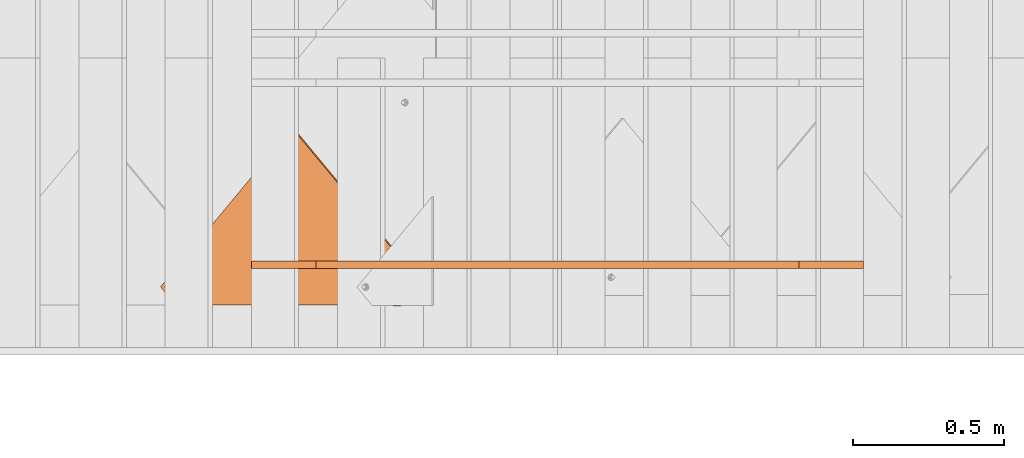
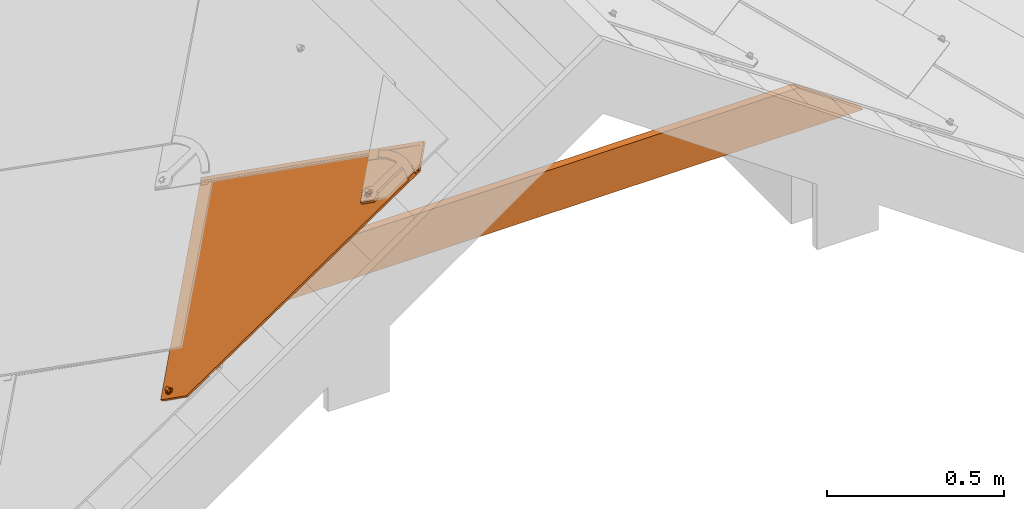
# One storey, part 13 of 133: 2 proxies, 1 element without a shape of its own.
"""IFC2X3 building model written with IfcOpenShell, lengths in millimetres."""

import ifcopenshell
import ifcopenshell.guid

model = None  # the IFC model being written
_history = None  # IfcOwnerHistory: only IFC2X3 demands one
_inside = {}  # id of a spatial element -> (the spatial element, [elements in it])
_under = {}  # id of a project, library or spatial element -> (it, [spatial elements below it])
_declared = {}  # id of a project -> (the project, [libraries it declares])
_typed = {}  # id of a type object -> (the type object, [elements of that type])
_made_of = {}  # id of a material, layer set ... -> (it, [elements and type objects made of it])


def new_model(schema):
    """Start an empty IFC model of exactly this schema.

    Asked for "IFC4X3", IfcOpenShell would pick the latest addendum, in which some entities
    have other attributes; the version numbers below select the first issue.
    IFC2X3 requires an IfcOwnerHistory on every rooted entity: one is made here for all.
    """
    global model, _history
    if schema == "IFC4X3":
        model = ifcopenshell.file(schema_version=(4, 3, 0, 0))
    else:
        model = ifcopenshell.file(schema=schema)
    _inside.clear()
    _under.clear()
    _declared.clear()
    _typed.clear()
    _made_of.clear()
    _history = None
    if model.schema == "IFC2X3":
        org = make("IfcOrganization", Name="unknown")
        user = make(
            "IfcPersonAndOrganization",
            ThePerson=make("IfcPerson", FamilyName="unknown"),
            TheOrganization=org,
        )
        app = make(
            "IfcApplication",
            ApplicationDeveloper=org,
            Version="unknown",
            ApplicationFullName="unknown",
            ApplicationIdentifier="unknown",
        )
        _history = make(
            "IfcOwnerHistory",
            OwningUser=user,
            OwningApplication=app,
            ChangeAction="ADDED",
            CreationDate=0,
        )
    return model


def make(cls, **values):
    """One entity of the class cls with the attributes given. An attribute that is None is left unset."""
    return model.create_entity(
        cls, **{name: value for name, value in values.items() if value is not None}
    )


def entity(cls, *values):
    """Any entity or typed value of the class cls, its attributes in the order of the schema. None: left unset."""
    e = model.create_entity(cls)
    for i, value in enumerate(values):
        if value is not None:
            e[i] = value
    return e


def rooted(cls, **values):
    """An entity with a GlobalId (a new one), such as an element, a storey or a relation."""
    return make(cls, GlobalId=ifcopenshell.guid.new(), OwnerHistory=_history, **values)


def si_unit(unit_type, name, prefix=None):
    """IfcSIUnit, for example si_unit("LENGTHUNIT", "METRE", prefix="MILLI")."""
    return make("IfcSIUnit", UnitType=unit_type, Prefix=prefix, Name=name)


def converted_unit(unit_type, name, factor, base, dimensions=None, offset=None):
    """IfcConversionBasedUnit, such as the inch: factor (a typed value) times the base unit."""
    return make(
        "IfcConversionBasedUnit"
        if offset is None
        else "IfcConversionBasedUnitWithOffset",
        ConversionOffset=offset,
        Dimensions=None
        if dimensions is None
        else entity("IfcDimensionalExponents", *dimensions),
        UnitType=unit_type,
        Name=name,
        ConversionFactor=make(
            "IfcMeasureWithUnit", ValueComponent=factor, UnitComponent=base
        ),
    )


def derived_unit(unit_type, elements):
    """IfcDerivedUnit: a product of units, each with its exponent."""
    return make(
        "IfcDerivedUnit",
        Elements=[
            make("IfcDerivedUnitElement", Unit=unit, Exponent=power)
            for unit, power in elements
        ],
        UnitType=unit_type,
    )


def assignment(units):
    """IfcUnitAssignment: the units of a project."""
    return None if units is None else make("IfcUnitAssignment", Units=units)


def point(xyz):
    """IfcCartesianPoint."""
    return None if xyz is None else make("IfcCartesianPoint", Coordinates=xyz)


def direction(xyz):
    """IfcDirection."""
    return None if xyz is None else make("IfcDirection", DirectionRatios=xyz)


def frame(location, z_axis=None, x_axis=None):
    """IfcAxis2Placement3D, a coordinate frame: its origin and axes. An axis left out is left unset."""
    return make(
        "IfcAxis2Placement3D",
        Location=point(location),
        Axis=direction(z_axis),
        RefDirection=direction(x_axis),
    )


def origin():
    """The frame at (0, 0, 0) with its axes left unset."""
    return frame((0.0, 0.0, 0.0))


def place(relative_to, where):
    """IfcLocalPlacement: puts the frame where relative to a parent placement (None: the world)."""
    return make(
        "IfcLocalPlacement", PlacementRelTo=relative_to, RelativePlacement=where
    )


def context(
    kind, dimensions, precision=None, world=None, true_north=None, identifier=None
):
    """IfcGeometricRepresentationContext, for example the 3D "Model" context."""
    return make(
        "IfcGeometricRepresentationContext",
        ContextIdentifier=identifier,
        ContextType=kind,
        CoordinateSpaceDimension=dimensions,
        Precision=precision,
        WorldCoordinateSystem=world,
        TrueNorth=true_north,
    )


def subcontext(parent, identifier, kind, view, scale=None):
    """IfcGeometricRepresentationSubContext, for example "Body" below "Model"."""
    return make(
        "IfcGeometricRepresentationSubContext",
        ContextIdentifier=identifier,
        ContextType=kind,
        ParentContext=parent,
        TargetScale=scale,
        TargetView=view,
    )


def project(units=None, contexts=None):
    """IfcProject with its units and contexts."""
    return rooted(
        "IfcProject",
        Name="project",
        RepresentationContexts=contexts,
        UnitsInContext=assignment(units),
    )


def spatial(cls, under=None, at=None, **own):
    """A site, building, storey or space (cls), placed at a placement, below another one or the project."""
    s = rooted(cls, ObjectPlacement=at, **own)
    if under is not None:
        _under.setdefault(under.id(), (under, []))[1].append(s)
    return s


def polyline(points):
    """IfcPolyline through the points."""
    return make("IfcPolyline", Points=[point(p) for p in points])


def outline(outer, holes=None, kind="AREA"):
    """IfcArbitraryClosedProfileDef: a profile drawn as a closed curve; with holes, ...WithVoids."""
    if holes is None:
        return make("IfcArbitraryClosedProfileDef", ProfileType=kind, OuterCurve=outer)
    return make(
        "IfcArbitraryProfileDefWithVoids",
        ProfileType=kind,
        OuterCurve=outer,
        InnerCurves=holes,
    )


def extrude(swept, where, along, depth):
    """IfcExtrudedAreaSolid: the profile swept, set in the frame where, extruded along a direction by depth."""
    return make(
        "IfcExtrudedAreaSolid",
        SweptArea=swept,
        Position=where,
        ExtrudedDirection=direction(along),
        Depth=depth,
    )


def faces_of(points, faces, orient=None, outer=None):
    """IfcFace entities. A face is a list of loops; a loop is a list of indices into points, from 0.

    orient and outer hold one flag for each loop. By default every Orientation is true, the
    first loop of a face is its IfcFaceOuterBound and the others are IfcFaceBound.
    """
    made = []
    for i, loops in enumerate(faces):
        bounds = []
        for j, loop in enumerate(loops):
            is_outer = j == 0 if outer is None else outer[i][j]
            bounds.append(
                make(
                    "IfcFaceOuterBound" if is_outer else "IfcFaceBound",
                    Bound=make("IfcPolyLoop", Polygon=[points[k] for k in loop]),
                    Orientation=True if orient is None else orient[i][j],
                )
            )
        made.append(make("IfcFace", Bounds=bounds))
    return made


def faceted_brep(points, faces, orient=None, outer=None, voids=None):
    """IfcFacetedBrep: a solid bounded by flat faces; with voids (closed shells), ...WithVoids."""
    shared = [point(p) for p in points]
    hull = make("IfcClosedShell", CfsFaces=faces_of(shared, faces, orient, outer))
    if voids is None:
        return make("IfcFacetedBrep", Outer=hull)
    return make(
        "IfcFacetedBrepWithVoids",
        Outer=hull,
        Voids=[
            make(cls, CfsFaces=faces_of(shared, fs, o, b)) for cls, fs, o, b in voids
        ],
    )


def shape(context_of_items, identifier, shape_type, items):
    """IfcShapeRepresentation: the items that make up one representation, for example the "Body"."""
    return make(
        "IfcShapeRepresentation",
        ContextOfItems=context_of_items,
        RepresentationIdentifier=identifier,
        RepresentationType=shape_type,
        Items=items,
    )


def source(mapping_origin, context_of_items, identifier, shape_type, items):
    """IfcRepresentationMap: a shape defined once, which mapped items show again and again."""
    return make(
        "IfcRepresentationMap",
        MappingOrigin=mapping_origin,
        MappedRepresentation=shape(context_of_items, identifier, shape_type, items),
    )


def transform(
    local_origin,
    x_axis=None,
    y_axis=None,
    z_axis=None,
    scale=None,
    scale2=None,
    scale3=None,
    uniform=True,
):
    """IfcCartesianTransformationOperator3D, or its non-uniform kind. x_axis, y_axis, z_axis: its Axis1, 2, 3."""
    if uniform:
        return make(
            "IfcCartesianTransformationOperator3D",
            Axis1=direction(x_axis),
            Axis2=direction(y_axis),
            LocalOrigin=point(local_origin),
            Scale=scale,
            Axis3=direction(z_axis),
        )
    return make(
        "IfcCartesianTransformationOperator3DnonUniform",
        Axis1=direction(x_axis),
        Axis2=direction(y_axis),
        LocalOrigin=point(local_origin),
        Scale=scale,
        Axis3=direction(z_axis),
        Scale2=scale2,
        Scale3=scale3,
    )


def mapped(mapping_source, mapping_target):
    """IfcMappedItem: shows the shape of a source again, moved by a transform."""
    return make(
        "IfcMappedItem", MappingSource=mapping_source, MappingTarget=mapping_target
    )


def material(Name=None, Category=None):
    """IfcMaterial."""
    return make("IfcMaterial", Name=Name, Category=Category)


def material_list(materials):
    """IfcMaterialList."""
    return make("IfcMaterialList", Materials=materials)


def made_of(thing, what):
    """Note that an element or type object is made of a material, layer set ...; save() writes the relation."""
    if what is not None:
        _made_of.setdefault(what.id(), (what, []))[1].append(thing)
    return thing


def type_object(cls, material=None, **own):
    """A type object (cls), such as IfcWallType, which elements share."""
    return made_of(rooted(cls, **own), material)


def type_shapes(of_type, sources):
    """Give a type object the sources (RepresentationMaps) that its elements show as mapped items."""
    of_type.RepresentationMaps = sources


def element(
    cls,
    number,
    at=None,
    inside=None,
    cuts=None,
    type_object=None,
    material=None,
    context=None,
    identifier="Body",
    shape_type=None,
    held_by="IfcProductDefinitionShape",
    body=None,
    shapes=None,
    **own,
):
    """One element of the class cls, such as IfcWall. Its Tag is "e" and its number.

    at: its placement. inside: the storey or other place that contains it. cuts: it is an
    opening in that element (IfcRelVoidsElement). A single representation is given by context,
    identifier, shape_type and body (its items); several are given by shapes. held_by: the class
    of the entity that holds the representations. save() writes the other relations.
    """
    e = rooted(cls, Tag="e%d" % number, ObjectPlacement=at, **own)
    if body is not None:
        shapes = [shape(context, identifier, shape_type, body)]
    if shapes is not None:
        e.Representation = make(held_by, Representations=shapes)
    if inside is not None:
        _inside.setdefault(inside.id(), (inside, []))[1].append(e)
    if cuts is not None:
        rooted(
            "IfcRelVoidsElement", RelatingBuildingElement=cuts, RelatedOpeningElement=e
        )
    if type_object is not None:
        _typed.setdefault(type_object.id(), (type_object, []))[1].append(e)
    return made_of(e, material)


def aggregate(whole, parts):
    """IfcRelAggregates: a whole, such as a stair, and the parts it consists of."""
    return rooted("IfcRelAggregates", RelatingObject=whole, RelatedObjects=parts)


def save(model, path):
    """Write the relations noted so far, then the file.

    IfcRelAggregates (storeys below a building ...), IfcRelContainedInSpatialStructure (elements
    in a storey), IfcRelDefinesByType, IfcRelAssociatesMaterial and IfcRelDeclares: one each for
    every whole, place, type object, material and project.
    """
    for whole, parts in _under.values():
        aggregate(whole, parts)
    for where, things in _inside.values():
        rooted(
            "IfcRelContainedInSpatialStructure",
            RelatedElements=things,
            RelatingStructure=where,
        )
    for kind, things in _typed.values():
        rooted("IfcRelDefinesByType", RelatedObjects=things, RelatingType=kind)
    for what, things in _made_of.values():
        rooted("IfcRelAssociatesMaterial", RelatedObjects=things, RelatingMaterial=what)
    for by, libraries in _declared.values():
        rooted("IfcRelDeclares", RelatingContext=by, RelatedDefinitions=libraries)
    model.write(path)


model = new_model("IFC2X3")

# Units and contexts
model_context = context("Model", 3, precision=0.01, world=origin(), true_north=direction((6.12303176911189e-17, 1.0)))
body_context = subcontext(model_context, "Body", "Model", "MODEL_VIEW")
ifc_project = project(units=[si_unit("LENGTHUNIT", "METRE", prefix="MILLI"), si_unit("AREAUNIT", "SQUARE_METRE"), si_unit("VOLUMEUNIT", "CUBIC_METRE"), converted_unit("PLANEANGLEUNIT", "DEGREE", entity("IfcRatioMeasure", 0.0174532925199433), si_unit("PLANEANGLEUNIT", "RADIAN"), dimensions=[0, 0, 0, 0, 0, 0, 0]), si_unit("MASSUNIT", "GRAM", prefix="KILO"), derived_unit("MASSDENSITYUNIT", [(si_unit("MASSUNIT", "GRAM", prefix="KILO"), 1), (si_unit("LENGTHUNIT", "METRE"), -3)]), si_unit("TIMEUNIT", "SECOND"), si_unit("FREQUENCYUNIT", "HERTZ"), si_unit("THERMODYNAMICTEMPERATUREUNIT", "DEGREE_CELSIUS"), derived_unit("THERMALTRANSMITTANCEUNIT", [(si_unit("MASSUNIT", "GRAM", prefix="KILO"), 1), (si_unit("THERMODYNAMICTEMPERATUREUNIT", "KELVIN"), -1), (si_unit("TIMEUNIT", "SECOND"), -3)]), derived_unit("VOLUMETRICFLOWRATEUNIT", [(si_unit("LENGTHUNIT", "METRE"), 3), (si_unit("TIMEUNIT", "SECOND"), -1)]), si_unit("ELECTRICCURRENTUNIT", "AMPERE"), si_unit("ELECTRICVOLTAGEUNIT", "VOLT"), si_unit("POWERUNIT", "WATT"), si_unit("FORCEUNIT", "NEWTON", prefix="KILO"), si_unit("ILLUMINANCEUNIT", "LUX"), si_unit("LUMINOUSFLUXUNIT", "LUMEN"), si_unit("LUMINOUSINTENSITYUNIT", "CANDELA"), derived_unit("USERDEFINED", [(si_unit("MASSUNIT", "GRAM", prefix="KILO"), -1), (si_unit("LENGTHUNIT", "METRE"), -2), (si_unit("TIMEUNIT", "SECOND"), 3), (si_unit("LUMINOUSFLUXUNIT", "LUMEN"), 1)]), derived_unit("LINEARVELOCITYUNIT", [(si_unit("LENGTHUNIT", "METRE"), 1), (si_unit("TIMEUNIT", "SECOND"), -1)]), si_unit("PRESSUREUNIT", "PASCAL"), derived_unit("USERDEFINED", [(si_unit("LENGTHUNIT", "METRE"), -2), (si_unit("MASSUNIT", "GRAM", prefix="KILO"), 1), (si_unit("TIMEUNIT", "SECOND"), -2)])], contexts=[model_context])

# Site, building, storey
site_placement = place(None, origin())
site = spatial("IfcSite", under=ifc_project, at=site_placement, Name="Default", CompositionType="ELEMENT")
building_placement = place(site_placement, origin())
building = spatial("IfcBuilding", under=site, at=building_placement, CompositionType="ELEMENT")
storey_placement = place(building_placement, origin())
storey = spatial("IfcBuildingStorey", under=building, at=storey_placement, Name="Level 1", CompositionType="ELEMENT", Elevation=0.0)

# Assembly, proxy
assembly_placement = place(storey_placement, origin())
assembly = element("IfcElementAssembly", 1, at=assembly_placement, inside=storey, Name="Structural Framing Assembly:Roof Construction Assembly", ObjectType="Structural Framing Assembly:Roof Construction Assembly", AssemblyPlace="NOTDEFINED", PredefinedType="USERDEFINED")
ifc_material_1 = material(Name="Wood - Generic - Wood For Showcase")
building_element_proxy_type_1 = type_object("IfcBuildingElementProxyType", Name="Structural Framing 296", PredefinedType="NOTDEFINED", material=ifc_material_1)
shared_shape_1 = source(origin(), body_context, "Body", "SweptSolid", [
    extrude(outline(polyline([(-1014.04699829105, -75.0), (1014.04699829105, -75.0), (799.824797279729, 75.0), (-799.824797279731, 75.0), (-1014.04699829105, -75.0)])), frame((1206.77890726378, 2325.55080214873, 2164.95664769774), z_axis=(0.0, 1.0, 0.0), x_axis=(-1.0, 0.0, 0.0)), (0.0, 0.0, 1.0), 25.0),
])
type_shapes(building_element_proxy_type_1, [shared_shape_1])
proxy_1_placement = place(assembly_placement, frame((0.0, -8767.49999999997, 0.0)))
proxy_1 = element("IfcBuildingElementProxy", 2, at=proxy_1_placement, type_object=building_element_proxy_type_1, material=ifc_material_1, Name="Structural Framing 322:Structural Framing 296", ObjectType="Structural Framing 322:Structural Framing 296", context=body_context, shape_type="MappedRepresentation", body=[
    mapped(shared_shape_1, transform((0.0, 0.0, 0.0), scale=1.0)),
])
aggregate(assembly, [proxy_1])

# Proxy
ifc_material_2 = material(Name="Rubber - Sunstyle - Black")
ifc_material_3 = material(Name="Glass - Sunstyle - Tainted Black")
ifc_material_list_1 = material_list([ifc_material_2, ifc_material_3])
ifc_material_list_2 = material_list([ifc_material_2, ifc_material_3])
building_element_proxy_type_2 = type_object("IfcBuildingElementProxyType", Name="Shingle Right - Black", PredefinedType="NOTDEFINED", material=ifc_material_list_2)
shared_shape_2 = source(origin(), body_context, "Body", "Brep", [
    faceted_brep([(526.70519509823, 41.3127833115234, 3.87722628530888), (520.930992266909, 37.9795131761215, 3.9330502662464), (520.930992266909, 38.34782226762, 25.9249196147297), (526.70519509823, 41.6810924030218, 25.8690956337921), (520.930992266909, 31.3129729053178, 4.0446982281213), (520.930992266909, 31.6812819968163, 26.0365675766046), (526.70519509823, 27.979702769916, 4.1005222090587), (526.70519509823, 28.3480118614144, 26.092391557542), (532.47939792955, 31.3129729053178, 4.04469822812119), (532.47939792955, 31.6812819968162, 26.0365675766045), (532.47939792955, 37.9795131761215, 3.93305026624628), (532.47939792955, 38.3478222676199, 25.9249196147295), (518.101490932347, 26.4120542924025, 26.1248140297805), (526.70519509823, 22.8487830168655, 26.1844899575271), (514.537719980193, 35.0145521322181, 25.9807435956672), (518.101490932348, 43.6170499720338, 25.8366731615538), (526.70519509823, 47.1803212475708, 25.776997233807), (535.308899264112, 43.6170499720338, 25.8366731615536), (538.872670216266, 35.0145521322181, 25.9807435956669), (535.308899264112, 26.4120542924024, 26.1248140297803), (515.380950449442, 37.3096292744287, 28.2935855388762), (516.94872054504, 35.0855670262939, 30.2210682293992), (526.70519509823, 42.3986422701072, 30.8537686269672), (526.70519509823, 43.6391399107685, 30.2734219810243), (526.70519509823, 45.7966907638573, 29.2640469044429), (526.70519509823, 23.4048270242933, 27.4595479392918), (526.70519509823, 24.3484036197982, 29.6232523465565), (526.70519509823, 27.7977793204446, 31.0982967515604), (526.70519509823, 46.6672851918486, 27.0699596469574), (520.381949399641, 31.4479950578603, 31.0371647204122), (520.381949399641, 38.7484265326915, 30.9149006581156), (538.029439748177, 32.7982090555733, 28.3691406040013), (536.554075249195, 34.0111605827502, 30.1422000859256), (533.028440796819, 38.7484265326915, 30.9149006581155), (533.028440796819, 31.4479950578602, 31.0371647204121), (520.381949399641, 31.5820235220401, 39.0400528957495), (526.70519509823, 27.9318077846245, 39.1011849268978), (526.70519509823, 35.2322392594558, 38.9789208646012), (520.381949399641, 38.8824549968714, 38.9177888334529), (533.028440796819, 31.5820235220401, 39.0400528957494), (533.028440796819, 38.8824549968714, 38.9177888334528), (526.70519509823, 42.532670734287, 38.8566568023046), (526.70519509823, 34.6462430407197, 3.98887424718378)], [[[0, 1, 2, 3]], [[1, 4, 5, 2]], [[4, 6, 7, 5]], [[6, 8, 9, 7]], [[8, 10, 11, 9]], [[10, 0, 3, 11]], [[12, 7, 13]], [[7, 12, 5]], [[14, 5, 12]], [[5, 14, 2]], [[15, 2, 14]], [[3, 2, 15]], [[15, 16, 3]], [[16, 17, 3]], [[11, 3, 17]], [[11, 17, 18]], [[9, 11, 18]], [[18, 19, 9]], [[7, 9, 19]], [[19, 13, 7]], [[20, 14, 12]], [[21, 22, 23, 24]], [[24, 20, 21]], [[25, 20, 12]], [[26, 27, 21]], [[15, 14, 20]], [[12, 13, 25]], [[20, 28, 15]], [[28, 20, 24]], [[21, 27, 29]], [[21, 29, 30]], [[26, 21, 20]], [[20, 25, 26]], [[15, 28, 16]], [[21, 30, 22]], [[31, 18, 17]], [[28, 31, 17]], [[32, 27, 26]], [[26, 31, 32]], [[26, 25, 31]], [[25, 19, 31]], [[17, 16, 28]], [[31, 19, 18]], [[24, 31, 28]], [[33, 34, 32]], [[23, 22, 33]], [[24, 32, 31]], [[27, 32, 34]], [[32, 23, 33]], [[19, 25, 13]], [[32, 24, 23]], [[35, 36, 37]], [[37, 38, 35]], [[36, 39, 37]], [[40, 37, 39]], [[37, 40, 41]], [[37, 41, 38]], [[42, 6, 4]], [[4, 1, 42]], [[1, 0, 42]], [[42, 8, 6]], [[0, 10, 42]], [[8, 42, 10]], [[22, 30, 38, 41]], [[30, 29, 35, 38]], [[29, 27, 36, 35]], [[27, 34, 39, 36]], [[34, 33, 40, 39]], [[33, 22, 41, 40]]]),
    faceted_brep([(526.70519509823, 811.19100538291, 21.4210230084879), (526.70519509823, 815.690374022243, 21.3456697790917), (518.101490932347, 814.754276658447, 21.3613470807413), (535.308899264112, 814.754276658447, 21.3613470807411), (533.345423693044, 819.523574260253, 21.2814732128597), (538.872670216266, 823.356774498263, 21.2172766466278), (533.345423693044, 827.189974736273, 21.1530800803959), (535.308899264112, 831.959272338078, 21.0732062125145), (526.70519509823, 831.023174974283, 21.0888835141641), (526.70519509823, 835.522543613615, 21.0135302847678), (518.101490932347, 831.959272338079, 21.0732062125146), (520.064966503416, 827.189974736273, 21.1530800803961), (514.537719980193, 823.356774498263, 21.217276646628), (520.064966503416, 819.523574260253, 21.2814732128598), (520.064966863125, 826.922051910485, 5.15532344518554), (526.70519509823, 830.755251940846, 5.09112688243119), (520.064966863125, 819.255651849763, 5.2837165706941), (526.70519509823, 815.422451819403, 5.34791313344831), (533.345423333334, 819.255651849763, 5.28371657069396), (533.345423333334, 826.922051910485, 5.1553234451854), (518.101490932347, 814.486354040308, 5.36359044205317), (526.70519509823, 810.923082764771, 5.4232663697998), (514.537719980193, 823.088851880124, 5.21952000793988), (518.101490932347, 831.69134971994, 5.07544957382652), (526.70519509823, 835.254620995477, 5.01577364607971), (535.308899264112, 831.69134971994, 5.07544957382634), (538.872670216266, 823.088851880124, 5.21952000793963), (535.308899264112, 814.486354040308, 5.36359044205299)], [[[0, 1, 2]], [[1, 0, 3]], [[3, 4, 1]], [[4, 3, 5]], [[6, 4, 5]], [[5, 7, 6]], [[7, 8, 6]], [[8, 7, 9]], [[8, 9, 10]], [[10, 11, 8]], [[12, 11, 10]], [[2, 13, 12]], [[12, 13, 11]], [[13, 2, 1]], [[8, 11, 14, 15]], [[11, 13, 16, 14]], [[13, 1, 17, 16]], [[1, 4, 18, 17]], [[4, 6, 19, 18]], [[6, 8, 15, 19]], [[20, 17, 21]], [[17, 20, 16]], [[22, 16, 20]], [[14, 16, 22]], [[23, 14, 22]], [[15, 14, 23]], [[23, 24, 15]], [[24, 25, 15]], [[19, 15, 25]], [[19, 25, 26]], [[26, 18, 19]], [[26, 27, 18]], [[17, 18, 27]], [[27, 21, 17]], [[24, 23, 10, 9]], [[10, 23, 22, 12]], [[20, 21, 0, 2]], [[20, 2, 12, 22]], [[21, 27, 3, 0]], [[3, 27, 26, 5]], [[25, 24, 9, 7]], [[25, 7, 5, 26]]]),
    faceted_brep([(578.30986553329, 967.15023469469, 8.79467739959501), (586.794551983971, 975.634921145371, 8.65258001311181), (586.794551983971, 975.660038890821, 10.1523696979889), (578.30986553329, 967.17535244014, 10.294467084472), (517.891471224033, 1027.55168765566, 7.7831033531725), (8.48468645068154, 518.287740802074, 16.3120073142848), (0.0, 526.772427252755, 16.1699099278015), (517.891471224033, 1044.51868144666, 7.49894842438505), (517.891471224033, 1044.54379919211, 8.99873810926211), (0.0, 526.797544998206, 17.6696996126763), (8.4846864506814, 518.312858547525, 17.8117969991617), (517.891471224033, 1027.57680540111, 9.28289303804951)], [[[0, 1, 2, 3]], [[1, 0, 4, 5, 6, 7]], [[2, 1, 7, 8]], [[3, 2, 8, 9, 10, 11]], [[0, 3, 11, 4]], [[5, 10, 9, 6]], [[8, 7, 6, 9]], [[4, 11, 10, 5]]]),
    faceted_brep([(586.794551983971, 975.634921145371, 8.65258001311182), (517.891471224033, 1044.51868144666, 7.49894842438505), (523.812678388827, 834.561085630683, 11.0152157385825), (526.918506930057, 834.969918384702, 11.0083688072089), (530.024335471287, 834.561085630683, 11.0152157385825), (532.918506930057, 833.362448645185, 11.0352899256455), (535.403788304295, 831.455692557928, 11.0672233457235), (537.31081177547, 828.970759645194, 11.1088397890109), (538.509616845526, 826.076993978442, 11.1573031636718), (538.918506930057, 822.971600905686, 11.2093107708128), (538.509616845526, 819.86620783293, 11.2613183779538), (586.79455198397, 60.1087646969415, 23.9853651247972), (520.918506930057, 833.362448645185, 11.0352899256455), (518.433225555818, 831.455692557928, 11.0672233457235), (516.526202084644, 828.970759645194, 11.1088397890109), (515.327397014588, 826.076993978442, 11.1573031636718), (0.0, 526.772427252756, 16.1699099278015), (514.918506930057, 822.971600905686, 11.2093107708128), (515.327397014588, 819.86620783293, 11.2613183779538), (516.526202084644, 816.972442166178, 11.3097817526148), (518.433225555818, 814.487509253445, 11.3513981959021), (520.918506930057, 812.580753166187, 11.3833316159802), (523.812678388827, 811.382116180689, 11.4034058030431), (524.667140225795, 42.642731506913, 24.2778777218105), (522.737692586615, 41.8436401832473, 24.2912605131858), (521.080838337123, 40.572469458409, 24.3125494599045), (519.80948935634, 38.9158475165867, 24.3402937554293), (519.010285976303, 36.9866704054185, 24.37260267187), (518.737692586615, 34.9164083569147, 24.407274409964), (519.010285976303, 32.8461463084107, 24.441946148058), (526.794551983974, 0.125588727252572, 24.989934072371), (519.80948935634, 30.9169691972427, 24.4742550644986), (533.665895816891, 30.9169691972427, 24.4742550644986), (532.394546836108, 29.2603472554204, 24.5019993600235), (530.737692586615, 27.9891765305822, 24.5232883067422), (528.808244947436, 27.1900852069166, 24.5366710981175), (526.737692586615, 26.9175300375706, 24.5412357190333), (524.667140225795, 27.1900852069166, 24.5366710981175), (522.737692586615, 27.9891765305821, 24.5232883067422), (521.080838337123, 29.2603472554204, 24.5019993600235), (526.737692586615, 42.9152866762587, 24.2733131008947), (528.808244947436, 42.6427315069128, 24.2778777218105), (530.737692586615, 41.8436401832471, 24.2912605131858), (532.394546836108, 40.572469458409, 24.3125494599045), (533.665895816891, 38.9158475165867, 24.3402937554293), (534.465099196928, 36.9866704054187, 24.37260267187), (534.737692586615, 34.9164083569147, 24.407274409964), (534.465099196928, 32.8461463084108, 24.441946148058), (526.918506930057, 810.97328342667, 11.4102527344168), (537.31081177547, 816.972442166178, 11.3097817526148), (535.403788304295, 814.487509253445, 11.3513981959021), (532.918506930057, 812.580753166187, 11.3833316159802), (530.024335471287, 811.382116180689, 11.4034058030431), (0.0, 526.646838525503, 8.67096150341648), (519.80948935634, 38.790258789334, 16.8413453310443), (519.010285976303, 36.8610816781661, 16.8736542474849), (521.080838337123, 40.4468807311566, 16.8136010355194), (518.737692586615, 34.7908196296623, 16.9083259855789), (519.010285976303, 32.7205575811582, 16.9429977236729), (526.794551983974, 0.0, 17.4909856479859), (522.737692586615, 41.7180514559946, 16.7923120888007), (524.667140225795, 42.5171427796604, 16.7789292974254), (523.812678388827, 811.256527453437, 3.90445737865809), (520.918506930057, 812.455164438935, 3.88438319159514), (518.433225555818, 814.361920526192, 3.85244977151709), (516.526202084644, 816.846853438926, 3.81083332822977), (515.327397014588, 819.740619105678, 3.76236995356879), (514.918506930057, 822.846012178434, 3.71036234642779), (515.327397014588, 825.95140525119, 3.65835473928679), (517.891471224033, 1044.39309271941, 0.0), (516.526202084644, 828.845170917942, 3.60989136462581), (518.433225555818, 831.330103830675, 3.56827492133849), (520.918506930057, 833.236859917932, 3.53634150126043), (523.812678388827, 834.435496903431, 3.51626731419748), (586.794551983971, 975.509332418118, 1.15363158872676), (526.918506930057, 834.84432965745, 3.50942038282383), (530.024335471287, 834.435496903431, 3.51626731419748), (532.918506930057, 833.236859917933, 3.53634150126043), (535.403788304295, 831.330103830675, 3.56827492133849), (537.31081177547, 828.845170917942, 3.60989136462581), (538.509616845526, 825.95140525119, 3.65835473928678), (538.918506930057, 822.846012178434, 3.71036234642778), (538.509616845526, 819.740619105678, 3.76236995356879), (586.79455198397, 59.983175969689, 16.4864167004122), (526.737692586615, 42.7896979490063, 16.7743646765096), (528.808244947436, 42.5171427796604, 16.7789292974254), (530.737692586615, 41.7180514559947, 16.7923120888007), (532.394546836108, 40.4468807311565, 16.8136010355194), (533.665895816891, 30.7913804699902, 16.9753066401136), (534.465099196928, 32.7205575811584, 16.9429977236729), (534.737692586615, 34.7908196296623, 16.9083259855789), (534.465099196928, 36.8610816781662, 16.8736542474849), (533.665895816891, 38.7902587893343, 16.8413453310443), (526.918506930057, 810.847694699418, 3.91130431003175), (530.024335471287, 811.256527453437, 3.90445737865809), (532.918506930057, 812.455164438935, 3.88438319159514), (535.403788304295, 814.361920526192, 3.85244977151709), (537.31081177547, 816.846853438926, 3.81083332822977), (519.80948935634, 30.7913804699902, 16.9753066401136), (521.080838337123, 29.134758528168, 17.0030509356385), (522.737692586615, 27.8635878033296, 17.0243398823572), (524.667140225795, 27.0644964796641, 17.0377226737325), (526.737692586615, 26.7919413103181, 17.0422872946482), (528.808244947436, 27.0644964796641, 17.0377226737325), (530.737692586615, 27.8635878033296, 17.0243398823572), (532.394546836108, 29.1347585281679, 17.0030509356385)], [[[0, 1, 2]], [[0, 2, 3]], [[3, 4, 0]], [[4, 5, 0]], [[0, 5, 6]], [[6, 7, 0]], [[7, 8, 0]], [[8, 9, 0]], [[9, 10, 0]], [[0, 10, 11]], [[2, 1, 12]], [[13, 12, 1]], [[14, 13, 1]], [[14, 1, 15]], [[15, 1, 16]], [[16, 17, 15]], [[17, 16, 18]], [[19, 18, 16]], [[19, 16, 20]], [[21, 20, 16]], [[22, 21, 16]], [[23, 22, 16]], [[24, 23, 16]], [[16, 25, 24]], [[25, 16, 26]], [[26, 16, 27]], [[28, 27, 16]], [[28, 16, 29]], [[29, 16, 30]], [[30, 31, 29]], [[11, 32, 30]], [[30, 32, 33]], [[34, 30, 33]], [[34, 35, 30]], [[36, 30, 35]], [[30, 36, 37]], [[37, 38, 30]], [[38, 39, 30]], [[39, 31, 30]], [[23, 11, 22]], [[11, 23, 40]], [[11, 40, 41]], [[11, 41, 42]], [[42, 43, 11]], [[44, 11, 43]], [[44, 45, 11]], [[45, 46, 11]], [[47, 11, 46]], [[11, 47, 32]], [[22, 11, 48]], [[10, 49, 11]], [[49, 50, 11]], [[50, 51, 11]], [[51, 52, 11]], [[52, 48, 11]], [[53, 54, 55]], [[54, 53, 56]], [[53, 55, 57]], [[57, 58, 53]], [[53, 58, 59]], [[60, 56, 53]], [[61, 60, 53]], [[61, 53, 62]], [[62, 53, 63]], [[53, 64, 63]], [[64, 53, 65]], [[65, 53, 66]], [[66, 53, 67]], [[67, 53, 68]], [[53, 69, 68]], [[70, 68, 69]], [[71, 70, 69]], [[69, 72, 71]], [[73, 72, 69]], [[73, 69, 74]], [[75, 73, 74]], [[75, 74, 76]], [[77, 76, 74]], [[74, 78, 77]], [[79, 78, 74]], [[80, 79, 74]], [[80, 74, 81]], [[81, 74, 82]], [[82, 74, 83]], [[84, 61, 83]], [[83, 85, 84]], [[86, 85, 83]], [[83, 87, 86]], [[59, 88, 83]], [[83, 88, 89]], [[90, 83, 89]], [[90, 91, 83]], [[91, 92, 83]], [[87, 83, 92]], [[62, 83, 61]], [[93, 83, 62]], [[83, 93, 94]], [[94, 95, 83]], [[83, 95, 96]], [[96, 97, 83]], [[97, 82, 83]], [[59, 58, 98]], [[99, 59, 98]], [[99, 100, 59]], [[100, 101, 59]], [[102, 59, 101]], [[59, 102, 103]], [[59, 103, 104]], [[104, 105, 59]], [[105, 88, 59]], [[16, 1, 69, 53]], [[30, 16, 53, 59]], [[11, 30, 59, 83]], [[1, 0, 74, 69]], [[28, 57, 55, 27]], [[27, 55, 54, 26]], [[24, 25, 56, 60]], [[56, 25, 26, 54]], [[23, 24, 60, 61]], [[23, 61, 84, 40]], [[40, 84, 85, 41]], [[41, 85, 86, 42]], [[44, 43, 87, 92]], [[87, 43, 42, 86]], [[45, 44, 92, 91]], [[45, 91, 90, 46]], [[46, 90, 89, 47]], [[47, 89, 88, 32]], [[34, 33, 105, 104]], [[105, 33, 32, 88]], [[35, 34, 104, 103]], [[35, 103, 102, 36]], [[36, 102, 101, 37]], [[37, 101, 100, 38]], [[31, 39, 99, 98]], [[39, 38, 100, 99]], [[58, 29, 31, 98]], [[29, 58, 57, 28]], [[17, 67, 68, 15]], [[15, 68, 70, 14]], [[12, 13, 71, 72]], [[71, 13, 14, 70]], [[2, 12, 72, 73]], [[2, 73, 75, 3]], [[3, 75, 76, 4]], [[4, 76, 77, 5]], [[7, 6, 78, 79]], [[78, 6, 5, 77]], [[8, 7, 79, 80]], [[8, 80, 81, 9]], [[9, 81, 82, 10]], [[10, 82, 97, 49]], [[51, 50, 96, 95]], [[96, 50, 49, 97]], [[52, 51, 95, 94]], [[52, 94, 93, 48]], [[48, 93, 62, 22]], [[22, 62, 63, 21]], [[19, 20, 64, 65]], [[64, 20, 21, 63]], [[18, 19, 65, 66]], [[18, 66, 67, 17]], [[0, 11, 83, 74]]]),
    faceted_brep([(503.195324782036, 841.557074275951, 20.8994526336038), (517.914693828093, 832.008099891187, 21.0593741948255), (507.695869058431, 846.190079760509, 20.8218613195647), (516.007670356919, 829.523166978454, 21.1009906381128), (499.815755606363, 836.052923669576, 20.9916334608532), (514.808865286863, 826.629401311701, 21.1494540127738), (497.720422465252, 829.943523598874, 21.0939507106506), (514.399975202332, 823.524008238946, 21.2014616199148), (497.010547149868, 823.524008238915, 21.2014616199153), (514.808865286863, 820.41861516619, 21.2534692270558), (516.007670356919, 817.524849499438, 21.3019326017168), (517.914693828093, 815.039916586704, 21.3435490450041), (526.399975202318, 794.138700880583, 21.6935924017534), (520.399975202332, 813.133160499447, 21.3754824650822), (523.294146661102, 811.934523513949, 21.3955566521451), (526.399975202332, 811.52569075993, 21.4024035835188), (529.505803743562, 811.934523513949, 21.3955566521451), (532.399975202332, 813.133160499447, 21.3754824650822), (534.885256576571, 815.039916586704, 21.3435490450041), (555.789403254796, 823.524008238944, 21.2014616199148), (536.792280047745, 817.524849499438, 21.3019326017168), (537.991085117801, 820.41861516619, 21.2534692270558), (538.399975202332, 823.524008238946, 21.2014616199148), (555.079527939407, 829.943523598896, 21.0939507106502), (537.991085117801, 826.629401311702, 21.1494540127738), (552.984194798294, 836.052923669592, 20.9916334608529), (536.792280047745, 829.523166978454, 21.1009906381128), (549.604625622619, 841.557074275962, 20.8994526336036), (534.88525657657, 832.008099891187, 21.0593741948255), (545.104081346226, 846.190079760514, 20.8218613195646), (532.399975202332, 833.914855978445, 21.0274407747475), (539.69997520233, 849.728127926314, 20.7626078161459), (529.505803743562, 835.113492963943, 21.0073665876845), (526.399975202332, 835.522325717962, 21.0005196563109), (513.09997520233, 849.728127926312, 20.762607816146), (513.099975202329, 947.789128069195, 19.1203300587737), (539.699975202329, 948.373752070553, 19.1105390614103), (522.252457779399, 973.425526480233, 18.6909841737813), (556.520926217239, 971.308509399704, 18.7264389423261), (565.239246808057, 944.126992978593, 19.1816617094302), (589.568348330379, 961.999667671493, 18.8823388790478), (589.568348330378, 935.274464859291, 19.3299195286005), (488.310294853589, 968.25512753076, 18.7775754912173), (488.729131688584, 942.717602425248, 19.2052654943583), (456.227055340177, 956.030775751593, 18.9823029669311), (465.633151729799, 933.432284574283, 19.3607714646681), (444.534595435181, 920.223666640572, 19.5819829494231), (427.451419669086, 937.304447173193, 19.2959223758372), (520.399975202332, 833.914855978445, 21.0274407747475), (523.294146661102, 835.113492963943, 21.0073665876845), (526.399975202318, 793.971249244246, 11.6949945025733), (526.399975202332, 811.358239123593, 11.4038056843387), (529.505803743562, 811.767071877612, 11.396958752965), (523.294146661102, 811.767071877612, 11.396958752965), (532.399975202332, 812.96570886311, 11.3768845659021), (534.885256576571, 814.872464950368, 11.344951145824), (555.789403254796, 823.356556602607, 11.2028637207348), (520.399975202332, 812.96570886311, 11.3768845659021), (517.914693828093, 814.872464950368, 11.344951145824), (497.010547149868, 823.356556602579, 11.2028637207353), (516.007670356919, 817.357397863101, 11.3033347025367), (514.808865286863, 820.251163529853, 11.2548713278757), (514.399975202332, 823.356556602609, 11.2028637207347), (497.720422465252, 829.776071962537, 11.0953528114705), (514.808865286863, 826.461949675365, 11.1508561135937), (499.815755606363, 835.885472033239, 10.9930355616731), (516.007670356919, 829.355715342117, 11.1023927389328), (503.195324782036, 841.389622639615, 10.9008547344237), (517.914693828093, 831.84064825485, 11.0607762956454), (507.695869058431, 846.022628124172, 10.8232634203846), (520.399975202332, 833.747404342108, 11.0288428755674), (513.09997520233, 849.560676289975, 10.7640099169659), (523.294146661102, 834.946041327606, 11.0087686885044), (526.399975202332, 835.354874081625, 11.0019217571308), (539.69997520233, 849.560676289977, 10.7640099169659), (513.099975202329, 947.621676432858, 9.12173215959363), (539.69997520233, 948.206300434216, 9.11194116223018), (522.252457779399, 973.258074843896, 8.69238627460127), (488.310294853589, 968.087675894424, 8.77897759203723), (488.729131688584, 942.550150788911, 9.20666759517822), (456.227055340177, 955.863324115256, 8.98370506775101), (465.633151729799, 933.264832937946, 9.36217356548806), (444.533467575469, 920.055518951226, 9.58339670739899), (428.044288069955, 936.544210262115, 9.30725215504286), (421.793762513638, 931.184466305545, 9.39701453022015), (415.826529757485, 925.515365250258, 9.49195786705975), (418.207622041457, 893.733364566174, 10.0242272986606), (401.122816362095, 910.815774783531, 9.73813943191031), (427.451419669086, 937.136995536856, 9.29732447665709), (556.520926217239, 971.141057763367, 8.727841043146), (565.239246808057, 943.959541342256, 9.18306381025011), (589.568348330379, 961.832216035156, 8.88374097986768), (589.568348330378, 935.107013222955, 9.33132162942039), (529.505803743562, 834.946041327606, 11.0087686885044), (532.399975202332, 833.747404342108, 11.0288428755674), (545.104081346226, 846.022628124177, 10.8232634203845), (534.88525657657, 831.84064825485, 11.0607762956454), (549.604625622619, 841.389622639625, 10.9008547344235), (536.792280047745, 829.355715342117, 11.1023927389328), (552.984194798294, 835.885472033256, 10.9930355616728), (537.991085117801, 826.461949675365, 11.1508561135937), (555.079527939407, 829.77607196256, 11.0953528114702), (538.399975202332, 823.356556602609, 11.2028637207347), (537.991085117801, 820.251163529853, 11.2548713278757), (536.792280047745, 817.357397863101, 11.3033347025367), (415.826529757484, 925.557228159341, 11.9916073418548), (401.122816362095, 910.857637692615, 12.2377889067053), (418.207622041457, 893.775227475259, 12.5238767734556), (444.534595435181, 920.09807791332, 12.083034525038), (428.042008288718, 936.584216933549, 11.8069327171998), (421.793762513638, 931.226329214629, 11.8966640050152)], [[[0, 1, 2]], [[3, 1, 0]], [[4, 3, 0]], [[5, 3, 4]], [[4, 6, 5]], [[6, 7, 5]], [[7, 6, 8]], [[9, 7, 8]], [[10, 9, 8]], [[10, 8, 11]], [[8, 12, 11]], [[13, 11, 12]], [[13, 12, 14]], [[12, 15, 14]], [[15, 12, 16]], [[16, 12, 17]], [[18, 17, 12]], [[18, 12, 19]], [[19, 20, 18]], [[21, 20, 19]], [[22, 21, 19]], [[19, 23, 22]], [[24, 22, 23]], [[23, 25, 24]], [[25, 26, 24]], [[26, 25, 27]], [[28, 26, 27]], [[27, 29, 28]], [[30, 28, 29]], [[29, 31, 30]], [[30, 31, 32]], [[32, 31, 33]], [[31, 34, 33]], [[35, 34, 31]], [[35, 31, 36]], [[36, 37, 35]], [[36, 38, 37]], [[39, 38, 36]], [[38, 39, 40]], [[41, 40, 39]], [[37, 42, 35]], [[35, 42, 43]], [[43, 42, 44]], [[44, 45, 43]], [[44, 46, 45]], [[46, 44, 47]], [[48, 34, 2]], [[48, 49, 34]], [[34, 49, 33]], [[48, 2, 1]], [[50, 51, 52]], [[51, 50, 53]], [[50, 52, 54]], [[54, 55, 50]], [[50, 55, 56]], [[57, 53, 50]], [[58, 57, 50]], [[58, 50, 59]], [[59, 60, 58]], [[60, 59, 61]], [[61, 59, 62]], [[63, 62, 59]], [[64, 62, 63]], [[63, 65, 64]], [[64, 65, 66]], [[65, 67, 66]], [[68, 66, 67]], [[69, 68, 67]], [[69, 70, 68]], [[70, 69, 71]], [[71, 72, 70]], [[71, 73, 72]], [[74, 73, 71]], [[71, 75, 74]], [[75, 76, 74]], [[76, 75, 77]], [[77, 75, 78]], [[79, 78, 75]], [[80, 78, 79]], [[79, 81, 80]], [[81, 82, 80]], [[82, 83, 80]], [[84, 83, 82]], [[84, 82, 85]], [[82, 86, 85]], [[86, 87, 85]], [[83, 88, 80]], [[76, 77, 89]], [[89, 90, 76]], [[90, 89, 91]], [[91, 92, 90]], [[93, 73, 74]], [[74, 94, 93]], [[94, 74, 95]], [[95, 96, 94]], [[95, 97, 96]], [[96, 97, 98]], [[99, 98, 97]], [[99, 100, 98]], [[101, 100, 99]], [[102, 100, 101]], [[56, 102, 101]], [[103, 102, 56]], [[56, 55, 104]], [[103, 56, 104]], [[34, 35, 75, 71]], [[2, 34, 71, 69]], [[0, 2, 69, 67]], [[67, 65, 4, 0]], [[6, 4, 65, 63]], [[8, 6, 63, 59]], [[12, 8, 59, 50]], [[19, 12, 50, 56]], [[23, 19, 56, 101]], [[25, 23, 101, 99]], [[99, 97, 27, 25]], [[29, 27, 97, 95]], [[31, 29, 95, 74]], [[36, 31, 74, 76]], [[38, 40, 91, 89]], [[37, 38, 89, 77]], [[77, 78, 42, 37]], [[44, 42, 78, 80]], [[47, 44, 80, 88]], [[7, 62, 64, 5]], [[5, 64, 66, 3]], [[48, 1, 68, 70]], [[66, 68, 1, 3]], [[49, 48, 70, 72]], [[73, 33, 49, 72]], [[32, 93, 94, 30]], [[30, 94, 96, 28]], [[24, 26, 98, 100]], [[96, 98, 26, 28]], [[22, 24, 100, 102]], [[32, 33, 73, 93]], [[22, 102, 103, 21]], [[21, 103, 104, 20]], [[17, 18, 55, 54]], [[104, 55, 18, 20]], [[16, 17, 54, 52]], [[51, 15, 16, 52]], [[14, 53, 57, 13]], [[13, 57, 58, 11]], [[9, 10, 60, 61]], [[58, 60, 10, 11]], [[7, 9, 61, 62]], [[14, 15, 51, 53]], [[105, 106, 107, 108, 109, 110]], [[107, 106, 87, 86]], [[108, 107, 82]], [[86, 82, 107]], [[109, 83, 110]], [[110, 83, 84]], [[84, 85, 105, 110]], [[106, 105, 85, 87]], [[46, 47, 109]], [[109, 47, 88]], [[46, 109, 108]], [[83, 109, 88]], [[108, 81, 45, 46]], [[108, 82, 81]], [[79, 75, 35, 43]], [[81, 79, 43, 45]], [[76, 90, 39, 36]], [[92, 41, 39, 90]], [[40, 41, 92, 91]]]),
])
type_shapes(building_element_proxy_type_2, [shared_shape_2])
proxy_2_placement = place(storey_placement, frame((-93.5510987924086, -5975.90745302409, 1920.17614654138), z_axis=(-0.57357643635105, 0.0, 0.819152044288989), x_axis=(0.0, -1.0, 0.0)))
element("IfcBuildingElementProxy", 3, at=proxy_2_placement, inside=storey, type_object=building_element_proxy_type_2, material=ifc_material_list_1, Name="Roofing_Panels_SunStyle_Tile_Shingle-Right:Shingle Right - Black", ObjectType="Roofing_Panels_SunStyle_Tile_Shingle-Right:Shingle Right - Black", context=body_context, shape_type="MappedRepresentation", body=[
    mapped(shared_shape_2, transform((0.0, 0.0, 0.0), scale=1.0)),
])

save(model, "model.ifc")
